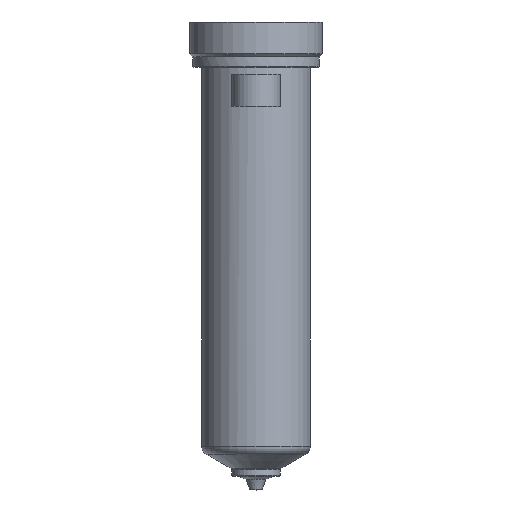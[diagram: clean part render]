
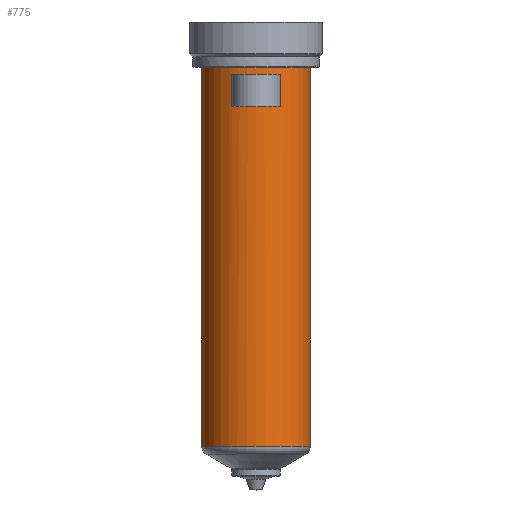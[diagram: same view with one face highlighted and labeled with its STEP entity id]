
A CAD part, top view. The second image highlights one B-rep face of the part: STEP entity #775.
In plain terms, the highlighted cylindrical face has radius 18 mm (diameter 36 mm), a partial arc.
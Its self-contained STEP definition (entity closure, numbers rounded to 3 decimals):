
#187=DIRECTION('',(0.,-1.,0.));
#188=VECTOR('',#187,125.506);
#189=CARTESIAN_POINT('',(18.,0.,0.));
#190=LINE('',#189,#188);
#191=CARTESIAN_POINT('',(0.,-125.506,0.));
#192=DIRECTION('',(0.,1.,0.));
#193=DIRECTION('',(-1.,0.,0.));
#194=AXIS2_PLACEMENT_3D('',#191,#192,#193);
#196=DIRECTION('',(0.,1.,0.));
#197=VECTOR('',#196,125.506);
#198=CARTESIAN_POINT('',(-18.,-125.506,0.));
#199=LINE('',#198,#197);
#200=CARTESIAN_POINT('',(0.,0.,0.));
#201=DIRECTION('',(0.,1.,0.));
#202=DIRECTION('',(-1.,0.,0.));
#203=AXIS2_PLACEMENT_3D('',#200,#201,#202);
#349=DIRECTION('',(0.,-1.,0.));
#350=VECTOR('',#349,10.5);
#351=CARTESIAN_POINT('',(-8.,-2.5,16.125));
#352=LINE('',#351,#350);
#353=CARTESIAN_POINT('',(0.,-13.,0.));
#354=DIRECTION('',(0.,1.,0.));
#355=DIRECTION('',(-0.444,0.,0.896));
#356=AXIS2_PLACEMENT_3D('',#353,#354,#355);
#379=CARTESIAN_POINT('',(0.,-2.5,0.));
#380=DIRECTION('',(0.,-1.,0.));
#381=DIRECTION('',(0.444,0.,0.896));
#382=AXIS2_PLACEMENT_3D('',#379,#380,#381);
#397=DIRECTION('',(0.,-1.,0.));
#398=VECTOR('',#397,10.5);
#399=CARTESIAN_POINT('',(8.,-2.5,16.125));
#400=LINE('',#399,#398);
#458=CARTESIAN_POINT('',(-18.,0.,0.));
#459=CARTESIAN_POINT('',(18.,0.,0.));
#460=VERTEX_POINT('',#458);
#461=VERTEX_POINT('',#459);
#470=CARTESIAN_POINT('',(-8.,-2.5,16.125));
#471=VERTEX_POINT('',#470);
#472=CARTESIAN_POINT('',(8.,-2.5,16.125));
#473=VERTEX_POINT('',#472);
#506=CARTESIAN_POINT('',(18.,-125.506,0.));
#507=VERTEX_POINT('',#506);
#516=CARTESIAN_POINT('',(-18.,-125.506,0.));
#517=VERTEX_POINT('',#516);
#534=CARTESIAN_POINT('',(-8.,-13.,16.125));
#535=CARTESIAN_POINT('',(8.,-13.,16.125));
#536=VERTEX_POINT('',#534);
#537=VERTEX_POINT('',#535);
#753=CARTESIAN_POINT('',(0.,16.4,0.));
#754=DIRECTION('',(0.,-1.,0.));
#755=DIRECTION('',(-1.,0.,0.));
#756=AXIS2_PLACEMENT_3D('',#753,#754,#755);
#757=CYLINDRICAL_SURFACE('',#756,18.);
#758=ORIENTED_EDGE('',*,*,#747,.T.);
#760=ORIENTED_EDGE('',*,*,#759,.F.);
#761=ORIENTED_EDGE('',*,*,#743,.T.);
#762=ORIENTED_EDGE('',*,*,#733,.T.);
#763=EDGE_LOOP('',(#758,#760,#761,#762));
#764=FACE_OUTER_BOUND('',#763,.F.);
#766=ORIENTED_EDGE('',*,*,#765,.T.);
#768=ORIENTED_EDGE('',*,*,#767,.T.);
#770=ORIENTED_EDGE('',*,*,#769,.F.);
#772=ORIENTED_EDGE('',*,*,#771,.T.);
#773=EDGE_LOOP('',(#766,#768,#770,#772));
#774=FACE_BOUND('',#773,.F.);
#775=ADVANCED_FACE('',(#764,#774),#757,.T.);
#195=CIRCLE('',#194,18.);
#204=CIRCLE('',#203,18.);
#357=CIRCLE('',#356,18.);
#383=CIRCLE('',#382,18.);
#733=EDGE_CURVE('',#460,#461,#204,.T.);
#743=EDGE_CURVE('',#517,#460,#199,.T.);
#747=EDGE_CURVE('',#461,#507,#190,.T.);
#759=EDGE_CURVE('',#517,#507,#195,.T.);
#765=EDGE_CURVE('',#471,#536,#352,.T.);
#767=EDGE_CURVE('',#536,#537,#357,.T.);
#769=EDGE_CURVE('',#473,#537,#400,.T.);
#771=EDGE_CURVE('',#473,#471,#383,.T.);
